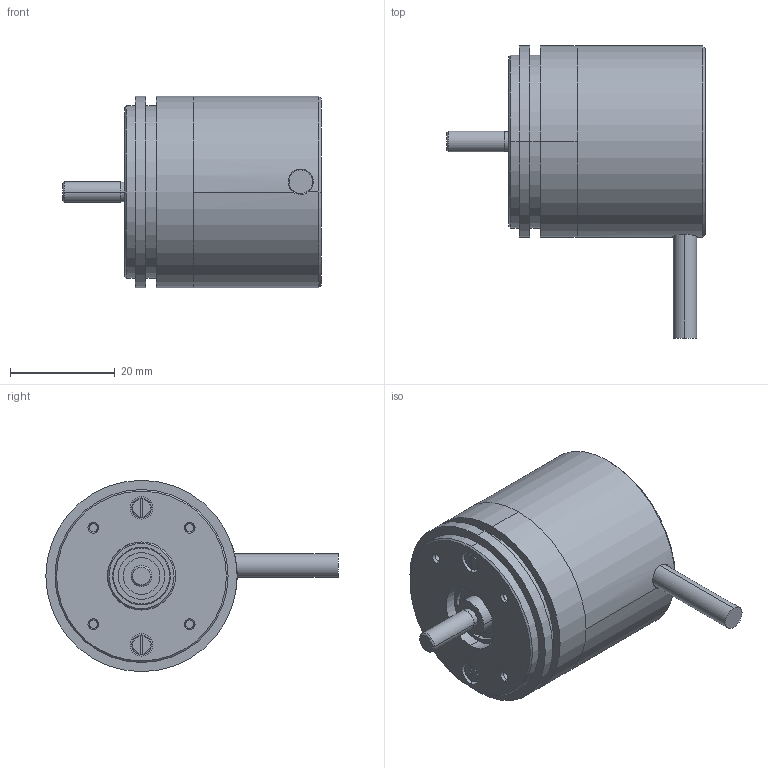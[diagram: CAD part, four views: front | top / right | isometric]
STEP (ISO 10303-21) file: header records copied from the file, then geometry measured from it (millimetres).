
FILE_DESCRIPTION (( 'STEP AP214' ), '1' );
FILE_NAME ('ﾋﾈﾐ-137ﾀ.STEP', '2017-05-23T08:43:43', ( '' ), ( '' ), 'SwSTEP 2.0', 'SolidWorks 2013', '' );
FILE_SCHEMA (( 'AUTOMOTIVE_DESIGN' ));
Length unit declared in the file: millimetre
Products named in the file (1): ﾋﾈﾐ-137ﾀ
Bounding box: 49.4 x 55.76 x 36.5 mm (x, y, z)
Surface area: 8506.9 mm2 (no closed solid volume)
Topology: 0 solids, 10 shells, 85 faces, 237 edges, 164 vertices
Faces by surface type: cylinder 36, plane 21, cone 20, torus 6, bspline 2
Entity records: 5516 total; most frequent: CARTESIAN_POINT 2351, DIRECTION 505, ORIENTED_EDGE 394, EDGE_CURVE 237, AXIS2_PLACEMENT_3D 220, VERTEX_POINT 164, CIRCLE 136, EDGE_LOOP 101
